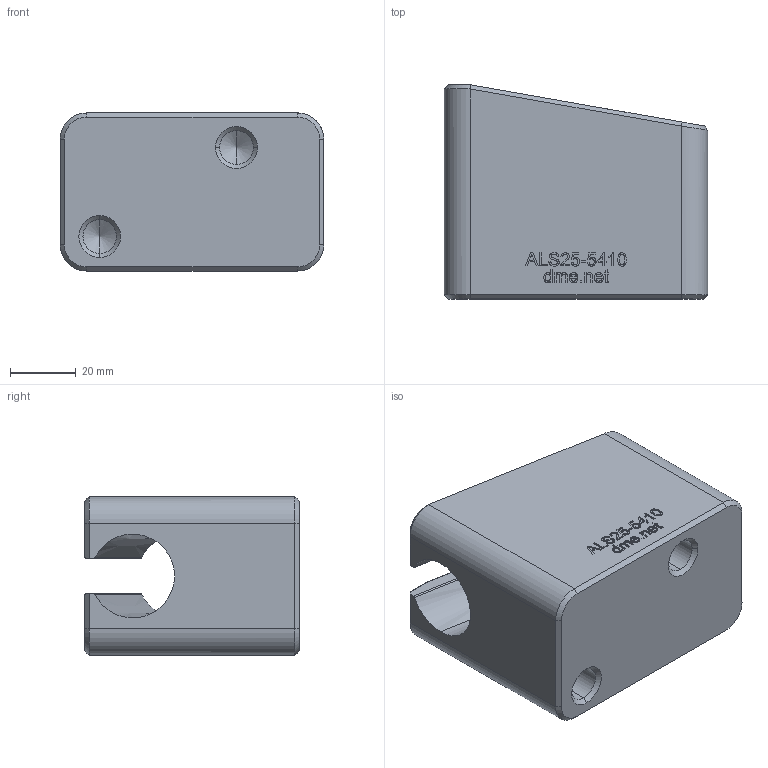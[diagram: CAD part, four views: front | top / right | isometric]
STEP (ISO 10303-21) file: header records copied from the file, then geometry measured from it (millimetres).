
FILE_DESCRIPTION (( 'STEP AP203' ), '1' );
FILE_NAME ('ALS25-5410.STEP', '2021-01-11T16:28:33', ( '' ), ( '' ), 'SwSTEP 2.0', 'SolidWorks 2020', '' );
FILE_SCHEMA (( 'CONFIG_CONTROL_DESIGN' ));
Length unit declared in the file: millimetre
Products named in the file (1): ALS25-5410
Bounding box: 80 x 65 x 48 mm (x, y, z)
Volume: 177166.1 mm3; surface area: 27085.1 mm2
Topology: 1 solids, 1 shells, 283 faces, 750 edges, 490 vertices
Faces by surface type: plane 150, bspline 105, cone 14, cylinder 14
Entity records: 14470 total; most frequent: CARTESIAN_POINT 8142, ORIENTED_EDGE 1492, DIRECTION 904, EDGE_CURVE 746, LINE 494, VECTOR 494, VERTEX_POINT 490, EDGE_LOOP 308
